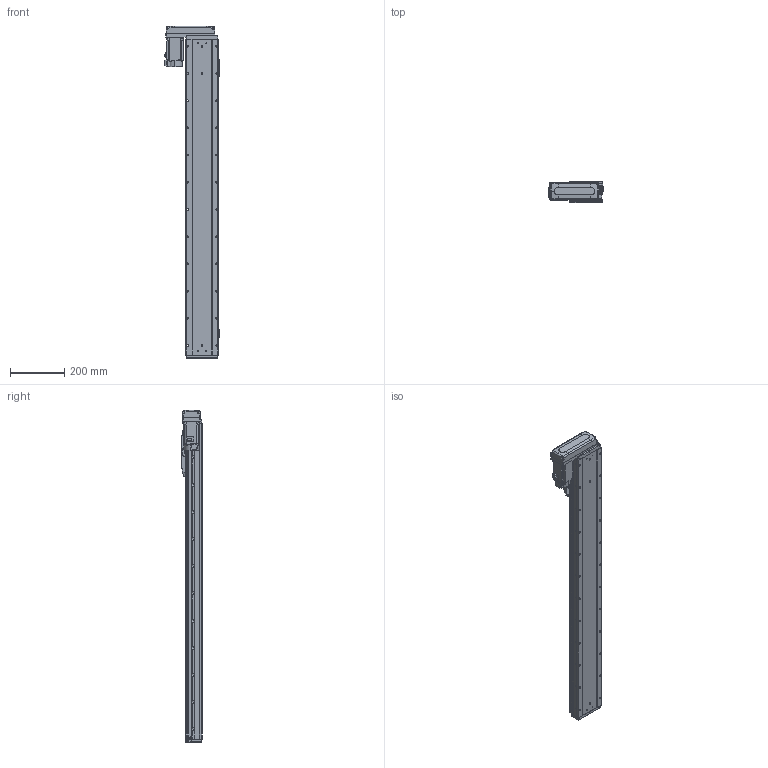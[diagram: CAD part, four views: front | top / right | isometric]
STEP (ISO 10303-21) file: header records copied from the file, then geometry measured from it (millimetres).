
FILE_DESCRIPTION (( 'STEP AP203' ), '1' );
FILE_NAME ('GTH12-950-BR-M40-C4.step', '2025-07-16T03:45:41', ( '' ), ( '' ), 'SwSTEP 2.0', 'SolidWorks 2023', '' );
FILE_SCHEMA (( 'CONFIG_CONTROL_DESIGN' ));
Length unit declared in the file: millimetre
Products named in the file (18): hg-kn43j_-s100_; GTH120-004; GBT 70.1-M5×16; GTH120-001_950; GTH12-950-BR-M40-C4; GTH50-024; GTH120-027-1_GTH120-027-2; GBT 70.1-M3×6; BTH-M3X5X6; GTH50-023; CTHA86-033_M40B; GBT 70.3-M3×8; GTH80-022; GTH80-028; GTH120-003; GBT96.1-2002 3×0.8; GTH120-006; GTH120-013
Assembly tree (59 placements, depth 2):
  GTH12-950-BR-M40-C4
    GTH120-001_950
    GTH120-003
    GTH120-006
    GTH120-004
    GTH120-013
    GBT 70.1-M3×6  x14
    GBT 70.1-M5×16  x10
    GBT 70.3-M3×8  x4
    GTH80-022
    GTH80-028  x2
    GTH50-023  x3
    GTH50-024  x3
    GBT96.1-2002 3×0.8  x6
    BTH-M3X5X6  x8
    hg-kn43j_-s100_
    CTHA86-033_M40B
    GTH120-027-1_GTH120-027-2
Bounding box: 203.5 x 76 x 1220.5 mm (x, y, z)
Volume: 8809980.5 mm3; surface area: 763729.2 mm2
Topology: 61 solids, 61 shells, 2522 faces, 5905 edges, 3625 vertices
Faces by surface type: plane 1288, cylinder 742, cone 304, torus 174, sphere 8, bspline 6
Entity records: 48031 total; most frequent: CARTESIAN_POINT 8138, DIRECTION 7981, ORIENTED_EDGE 7420, EDGE_CURVE 3710, AXIS2_PLACEMENT_3D 2789, VECTOR 2403, LINE 2403, VERTEX_POINT 2346
